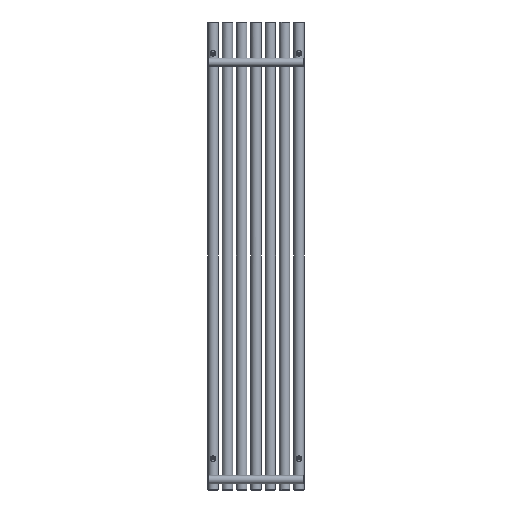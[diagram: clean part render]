
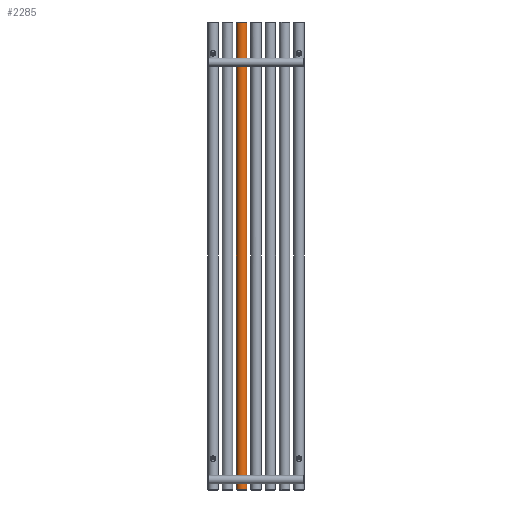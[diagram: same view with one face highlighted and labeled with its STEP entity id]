
A CAD part, front view. The second image highlights one B-rep face of the part: STEP entity #2285.
In plain terms, the highlighted cylindrical face has radius 20 mm (diameter 40 mm), a full revolution.
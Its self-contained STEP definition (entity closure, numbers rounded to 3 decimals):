
#179=FACE_BOUND('',#565,.T.);
#180=FACE_BOUND('',#566,.T.);
#215=LINE('',#4407,#291);
#291=VECTOR('',#2843,20.);
#367=CYLINDRICAL_SURFACE('',#2489,20.);
#403=FACE_OUTER_BOUND('',#564,.T.);
#564=EDGE_LOOP('',(#1608,#1609,#1610,#1611,#1612));
#565=EDGE_LOOP('',(#1613));
#566=EDGE_LOOP('',(#1614));
#752=B_SPLINE_CURVE_WITH_KNOTS('',3,(#4381,#4382,#4383,#4384,#4385,#4386,
#4387,#4388,#4389,#4390,#4391,#4392,#4393,#4394,#4395,#4396,#4397,#4398,
#4399,#4400,#4401),.UNSPECIFIED.,.T.,.F.,(4,1,1,1,1,1,1,1,1,1,1,1,1,1,1,
1,1,1,4),(-5.132,-4.765,-4.399,-4.154,
-3.91,-3.788,-3.666,-3.421,
-3.177,-2.933,-2.688,-2.199,
-1.955,-1.711,-1.466,-1.1,
-0.733,-0.367,0.),.UNSPECIFIED.);
#753=B_SPLINE_CURVE_WITH_KNOTS('',3,(#4411,#4412,#4413,#4414,#4415,#4416,
#4417,#4418,#4419,#4420,#4421,#4422,#4423,#4424,#4425,#4426,#4427,#4428,
#4429,#4430,#4431,#4432,#4433,#4434,#4435,#4436,#4437,#4438,#4439,#4440,
#4441,#4442,#4443,#4444,#4445,#4446,#4447,#4448,#4449,#4450,#4451,#4452,
#4453,#4454,#4455,#4456,#4457,#4458,#4459,#4460,#4461,#4462),
 .UNSPECIFIED.,.T.,.F.,(4,3,3,3,3,3,3,3,3,3,3,3,3,3,3,3,3,4),(-5.132,
-4.765,-4.399,-4.032,-3.666,
-3.421,-3.177,-2.933,-2.688,
-2.199,-1.955,-1.711,-1.466,
-1.222,-0.978,-0.733,-0.367,
0.),.UNSPECIFIED.);
#815=CIRCLE('',#2490,20.);
#816=CIRCLE('',#2491,20.);
#817=CIRCLE('',#2492,20.);
#1006=VERTEX_POINT('',#4379);
#1007=VERTEX_POINT('',#4403);
#1008=VERTEX_POINT('',#4404);
#1009=VERTEX_POINT('',#4406);
#1010=VERTEX_POINT('',#4410);
#1248=EDGE_CURVE('',#1006,#1006,#752,.T.);
#1249=EDGE_CURVE('',#1007,#1008,#815,.T.);
#1250=EDGE_CURVE('',#1007,#1009,#215,.T.);
#1251=EDGE_CURVE('',#1009,#1009,#816,.T.);
#1252=EDGE_CURVE('',#1008,#1007,#817,.T.);
#1253=EDGE_CURVE('',#1010,#1010,#753,.T.);
#1608=ORIENTED_EDGE('',*,*,#1249,.F.);
#1609=ORIENTED_EDGE('',*,*,#1250,.T.);
#1610=ORIENTED_EDGE('',*,*,#1251,.F.);
#1611=ORIENTED_EDGE('',*,*,#1250,.F.);
#1612=ORIENTED_EDGE('',*,*,#1252,.F.);
#1613=ORIENTED_EDGE('',*,*,#1253,.F.);
#1614=ORIENTED_EDGE('',*,*,#1248,.F.);
#2285=ADVANCED_FACE('',(#403,#179,#180),#367,.T.);
#2489=AXIS2_PLACEMENT_3D('',#4402,#2839,#2840);
#2490=AXIS2_PLACEMENT_3D('',#4405,#2841,#2842);
#2491=AXIS2_PLACEMENT_3D('',#4408,#2844,#2845);
#2492=AXIS2_PLACEMENT_3D('',#4409,#2846,#2847);
#2839=DIRECTION('center_axis',(0.,0.,1.));
#2840=DIRECTION('ref_axis',(-1.,0.,0.));
#2841=DIRECTION('center_axis',(0.,0.,1.));
#2842=DIRECTION('ref_axis',(-1.,0.,0.));
#2843=DIRECTION('',(0.,0.,-1.));
#2844=DIRECTION('center_axis',(0.,0.,-1.));
#2845=DIRECTION('ref_axis',(-1.,0.,0.));
#2846=DIRECTION('center_axis',(0.,0.,1.));
#2847=DIRECTION('ref_axis',(-1.,0.,0.));
#4379=CARTESIAN_POINT('',(-220.,-20.,50.1));
#4381=CARTESIAN_POINT('Ctrl Pts',(-220.,-20.,50.1));
#4382=CARTESIAN_POINT('Ctrl Pts',(-221.611,-20.,50.1));
#4383=CARTESIAN_POINT('Ctrl Pts',(-224.838,-19.598,49.587));
#4384=CARTESIAN_POINT('Ctrl Pts',(-228.411,-18.224,47.307));
#4385=CARTESIAN_POINT('Ctrl Pts',(-230.379,-17.114,44.115));
#4386=CARTESIAN_POINT('Ctrl Pts',(-230.993,-16.707,41.396));
#4387=CARTESIAN_POINT('Ctrl Pts',(-230.992,-16.708,39.163));
#4388=CARTESIAN_POINT('Ctrl Pts',(-230.666,-16.92,36.968));
#4389=CARTESIAN_POINT('Ctrl Pts',(-229.649,-17.552,34.429));
#4390=CARTESIAN_POINT('Ctrl Pts',(-227.534,-18.592,32.083));
#4391=CARTESIAN_POINT('Ctrl Pts',(-224.761,-19.504,30.58));
#4392=CARTESIAN_POINT('Ctrl Pts',(-220.581,-20.198,29.637));
#4393=CARTESIAN_POINT('Ctrl Pts',(-216.165,-19.824,30.09));
#4394=CARTESIAN_POINT('Ctrl Pts',(-212.466,-18.588,32.082));
#4395=CARTESIAN_POINT('Ctrl Pts',(-210.351,-17.556,34.43));
#4396=CARTESIAN_POINT('Ctrl Pts',(-208.927,-16.66,37.98));
#4397=CARTESIAN_POINT('Ctrl Pts',(-208.922,-16.66,42.599));
#4398=CARTESIAN_POINT('Ctrl Pts',(-211.137,-18.052,47.027));
#4399=CARTESIAN_POINT('Ctrl Pts',(-215.165,-19.6,49.585));
#4400=CARTESIAN_POINT('Ctrl Pts',(-218.389,-20.,50.1));
#4401=CARTESIAN_POINT('Ctrl Pts',(-220.,-20.,50.1));
#4402=CARTESIAN_POINT('Origin',(-220.,0.,0.));
#4403=CARTESIAN_POINT('',(-200.,0.,1798.));
#4404=CARTESIAN_POINT('',(-240.,0.,1798.));
#4405=CARTESIAN_POINT('Origin',(-220.,0.,1798.));
#4406=CARTESIAN_POINT('',(-200.,0.,2.));
#4407=CARTESIAN_POINT('',(-200.,0.,0.));
#4408=CARTESIAN_POINT('Origin',(-220.,0.,2.));
#4409=CARTESIAN_POINT('Origin',(-220.,0.,1798.));
#4410=CARTESIAN_POINT('',(-220.,-20.,1655.1));
#4411=CARTESIAN_POINT('Ctrl Pts',(-220.,-20.,1655.1));
#4412=CARTESIAN_POINT('Ctrl Pts',(-221.611,-20.,1655.1));
#4413=CARTESIAN_POINT('Ctrl Pts',(-223.223,-19.8,1654.843));
#4414=CARTESIAN_POINT('Ctrl Pts',(-224.7,-19.442,1654.288));
#4415=CARTESIAN_POINT('Ctrl Pts',(-226.178,-19.084,1653.733));
#4416=CARTESIAN_POINT('Ctrl Pts',(-227.52,-18.568,1652.88));
#4417=CARTESIAN_POINT('Ctrl Pts',(-228.561,-18.078,1651.716));
#4418=CARTESIAN_POINT('Ctrl Pts',(-229.601,-17.588,1650.552));
#4419=CARTESIAN_POINT('Ctrl Pts',(-230.34,-17.124,1649.075));
#4420=CARTESIAN_POINT('Ctrl Pts',(-230.708,-16.892,1647.472));
#4421=CARTESIAN_POINT('Ctrl Pts',(-231.076,-16.659,1645.868));
#4422=CARTESIAN_POINT('Ctrl Pts',(-231.074,-16.66,1644.136));
#4423=CARTESIAN_POINT('Ctrl Pts',(-230.707,-16.889,1642.53));
#4424=CARTESIAN_POINT('Ctrl Pts',(-230.462,-17.042,1641.459));
#4425=CARTESIAN_POINT('Ctrl Pts',(-230.056,-17.297,1640.444));
#4426=CARTESIAN_POINT('Ctrl Pts',(-229.5,-17.598,1639.546));
#4427=CARTESIAN_POINT('Ctrl Pts',(-228.944,-17.898,1638.647));
#4428=CARTESIAN_POINT('Ctrl Pts',(-228.239,-18.244,1637.865));
#4429=CARTESIAN_POINT('Ctrl Pts',(-227.424,-18.569,1637.223));
#4430=CARTESIAN_POINT('Ctrl Pts',(-226.61,-18.894,1636.582));
#4431=CARTESIAN_POINT('Ctrl Pts',(-225.685,-19.198,1636.081));
#4432=CARTESIAN_POINT('Ctrl Pts',(-224.7,-19.438,1635.713));
#4433=CARTESIAN_POINT('Ctrl Pts',(-223.716,-19.677,1635.345));
#4434=CARTESIAN_POINT('Ctrl Pts',(-222.671,-19.852,1635.11));
#4435=CARTESIAN_POINT('Ctrl Pts',(-221.606,-19.937,1634.991));
#4436=CARTESIAN_POINT('Ctrl Pts',(-219.477,-20.106,1634.752));
#4437=CARTESIAN_POINT('Ctrl Pts',(-217.268,-19.915,1634.976));
#4438=CARTESIAN_POINT('Ctrl Pts',(-215.299,-19.441,1635.715));
#4439=CARTESIAN_POINT('Ctrl Pts',(-214.315,-19.205,1636.084));
#4440=CARTESIAN_POINT('Ctrl Pts',(-213.39,-18.897,1636.583));
#4441=CARTESIAN_POINT('Ctrl Pts',(-212.575,-18.571,1637.224));
#4442=CARTESIAN_POINT('Ctrl Pts',(-211.761,-18.244,1637.865));
#4443=CARTESIAN_POINT('Ctrl Pts',(-211.056,-17.9,1638.648));
#4444=CARTESIAN_POINT('Ctrl Pts',(-210.5,-17.6,1639.547));
#4445=CARTESIAN_POINT('Ctrl Pts',(-209.944,-17.301,1640.446));
#4446=CARTESIAN_POINT('Ctrl Pts',(-209.537,-17.047,1641.461));
#4447=CARTESIAN_POINT('Ctrl Pts',(-209.293,-16.892,1642.531));
#4448=CARTESIAN_POINT('Ctrl Pts',(-209.048,-16.737,1643.601));
#4449=CARTESIAN_POINT('Ctrl Pts',(-208.967,-16.682,1644.727));
#4450=CARTESIAN_POINT('Ctrl Pts',(-209.049,-16.735,1645.834));
#4451=CARTESIAN_POINT('Ctrl Pts',(-209.13,-16.788,1646.941));
#4452=CARTESIAN_POINT('Ctrl Pts',(-209.375,-16.95,1648.029));
#4453=CARTESIAN_POINT('Ctrl Pts',(-209.779,-17.19,1649.029));
#4454=CARTESIAN_POINT('Ctrl Pts',(-210.183,-17.43,1650.029));
#4455=CARTESIAN_POINT('Ctrl Pts',(-210.745,-17.748,1650.94));
#4456=CARTESIAN_POINT('Ctrl Pts',(-211.44,-18.075,1651.715));
#4457=CARTESIAN_POINT('Ctrl Pts',(-212.482,-18.567,1652.878));
#4458=CARTESIAN_POINT('Ctrl Pts',(-213.822,-19.082,1653.733));
#4459=CARTESIAN_POINT('Ctrl Pts',(-215.299,-19.44,1654.288));
#4460=CARTESIAN_POINT('Ctrl Pts',(-216.776,-19.799,1654.844));
#4461=CARTESIAN_POINT('Ctrl Pts',(-218.389,-20.,1655.1));
#4462=CARTESIAN_POINT('Ctrl Pts',(-220.,-20.,1655.1));
